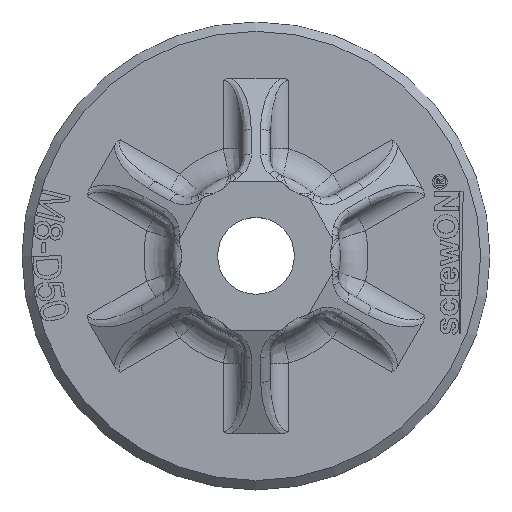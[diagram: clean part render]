
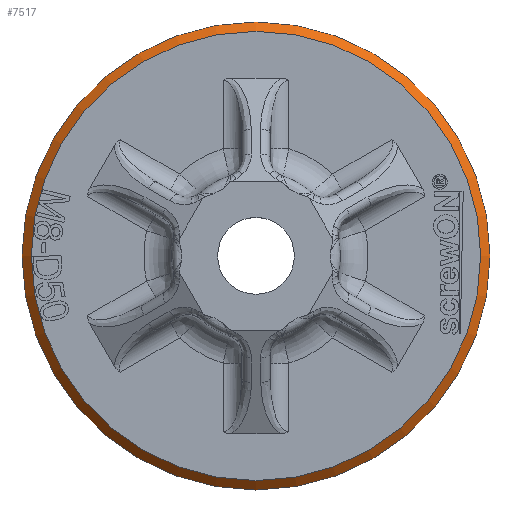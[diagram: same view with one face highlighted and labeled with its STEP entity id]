
A CAD part, top view. The second image highlights one B-rep face of the part: STEP entity #7517.
In plain terms, the highlighted conical face has half-angle 45 degrees and reference radius 24.5 mm.
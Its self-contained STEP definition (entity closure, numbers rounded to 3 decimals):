
#83=CONICAL_SURFACE('',#7832,24.5,0.785);
#84=CIRCLE('',#7727,24.);
#91=CIRCLE('',#7833,25.);
#92=CIRCLE('',#7834,25.);
#1274=FACE_OUTER_BOUND('',#1738,.T.);
#1738=EDGE_LOOP('',(#6444,#6445,#6446,#6447,#6448));
#2336=LINE('',#14077,#2861);
#2861=VECTOR('',#8814,24.5);
#3142=VERTEX_POINT('',#10336);
#3581=VERTEX_POINT('',#14076);
#3582=VERTEX_POINT('',#14078);
#3925=EDGE_CURVE('',#3142,#3142,#84,.T.);
#4565=EDGE_CURVE('',#3142,#3581,#2336,.T.);
#4566=EDGE_CURVE('',#3581,#3582,#91,.T.);
#4567=EDGE_CURVE('',#3582,#3581,#92,.T.);
#6444=ORIENTED_EDGE('',*,*,#3925,.T.);
#6445=ORIENTED_EDGE('',*,*,#4565,.T.);
#6446=ORIENTED_EDGE('',*,*,#4566,.T.);
#6447=ORIENTED_EDGE('',*,*,#4567,.T.);
#6448=ORIENTED_EDGE('',*,*,#4565,.F.);
#7517=ADVANCED_FACE('',(#1274),#83,.T.);
#7727=AXIS2_PLACEMENT_3D('',#10337,#8251,#8252);
#7832=AXIS2_PLACEMENT_3D('',#14075,#8812,#8813);
#7833=AXIS2_PLACEMENT_3D('',#14079,#8815,#8816);
#7834=AXIS2_PLACEMENT_3D('',#14080,#8817,#8818);
#8251=DIRECTION('center_axis',(0.,0.,-1.));
#8252=DIRECTION('ref_axis',(-1.,0.,0.));
#8812=DIRECTION('center_axis',(0.,0.,-1.));
#8813=DIRECTION('ref_axis',(-1.,0.,0.));
#8814=DIRECTION('',(0.707,0.,-0.707));
#8815=DIRECTION('center_axis',(0.,0.,1.));
#8816=DIRECTION('ref_axis',(-1.,0.,0.));
#8817=DIRECTION('center_axis',(0.,0.,1.));
#8818=DIRECTION('ref_axis',(-1.,0.,0.));
#10336=CARTESIAN_POINT('',(24.,0.,1.7));
#10337=CARTESIAN_POINT('Origin',(0.,0.,1.7));
#14075=CARTESIAN_POINT('Origin',(0.,0.,1.2));
#14076=CARTESIAN_POINT('',(25.,0.,0.7));
#14077=CARTESIAN_POINT('',(24.5,0.,1.2));
#14078=CARTESIAN_POINT('',(-25.,0.,0.7));
#14079=CARTESIAN_POINT('Origin',(0.,0.,0.7));
#14080=CARTESIAN_POINT('Origin',(0.,0.,0.7));
